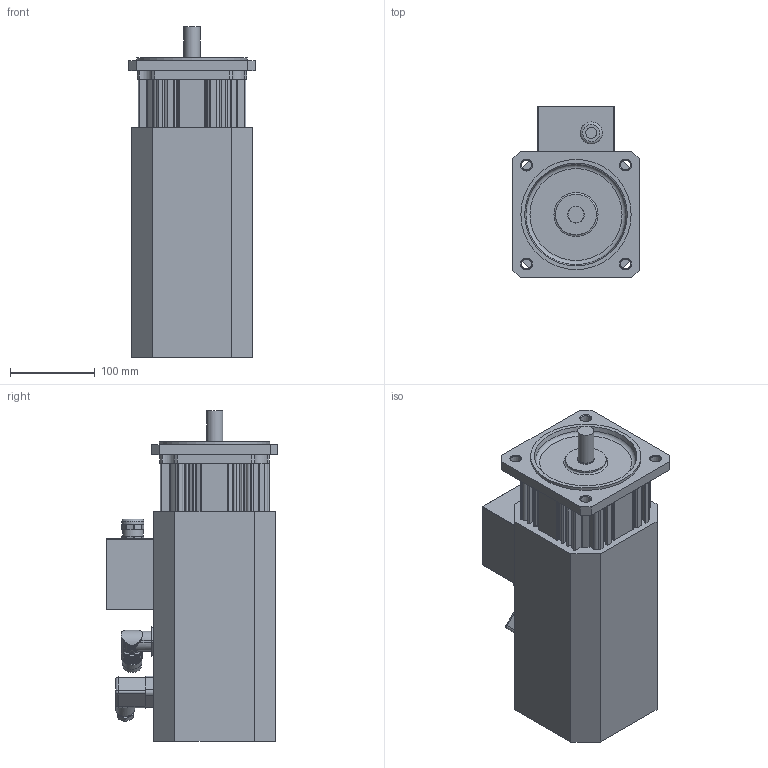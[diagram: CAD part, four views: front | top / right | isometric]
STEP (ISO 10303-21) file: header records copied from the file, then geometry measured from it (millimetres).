
FILE_DESCRIPTION(/* description */ (''),/* implementation_level */ '2;1');
FILE_NAME(/* name */ 'KSA648_FS_Ix',/* time_stamp */ '2009-02-26T15:45:26+01:00',/* author */ (''),/* organization */ (''),/* preprocessor_version */ 'ST-DEVELOPER v8',/* originating_system */ 'UNIGRAPHICS SOLUTIONS - UNIGRAPHICS 18.0',/* authorisation */ '');
FILE_SCHEMA (('AUTOMOTIVE_DESIGN { 1 2 10303 214 0 1 1 1 }'));
Length unit declared in the file: millimetre
Products named in the file (8): 0280391350_0; Winkelflanschdose_0; 014146_0; 014145_0; LagerschAS_0; 089106X_0; Klemmenkasten_0; KSA648_FS_Ix_0
Assembly tree (7 placements, depth 3):
  KSA648_FS_Ix_0
    089106X_0
    LagerschAS_0
    Klemmenkasten_0
      0280391350_0
    014145_0
    014146_0
    Winkelflanschdose_0
Bounding box: 149 x 202.35 x 390 mm (x, y, z)
Volume: 6671731.4 mm3; surface area: 483655.7 mm2
Topology: 8 solids, 8 shells, 762 faces, 2109 edges, 1383 vertices
Faces by surface type: cylinder 447, plane 283, cone 16, sphere 8, torus 4, bspline 4
Full cylindrical faces by diameter (mm): 3.2 x1, 3.5 x4, 4.5 x1, 5 x2, 6.5 x4, 13 x2, 16 x1, 17 x1, 18 x1, 19 x1, 20 x3, 21 x1, 21.5 x1, 22.5 x1, 23 x2, 24 x1, 26 x1, 48 x1, 119.7 x2, 122 x1, 130 x1
Entity records: 24850 total; most frequent: CARTESIAN_POINT 4930, DIRECTION 4230, ORIENTED_EDGE 4082, EDGE_CURVE 2041, AXIS2_PLACEMENT_3D 1579, VERTEX_POINT 1372, LINE 1072, VECTOR 1072
